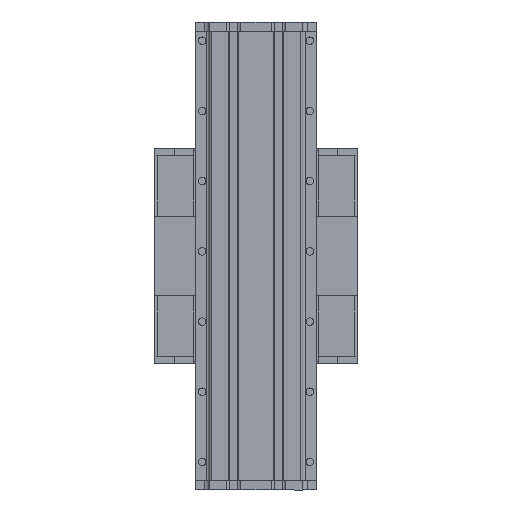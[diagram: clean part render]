
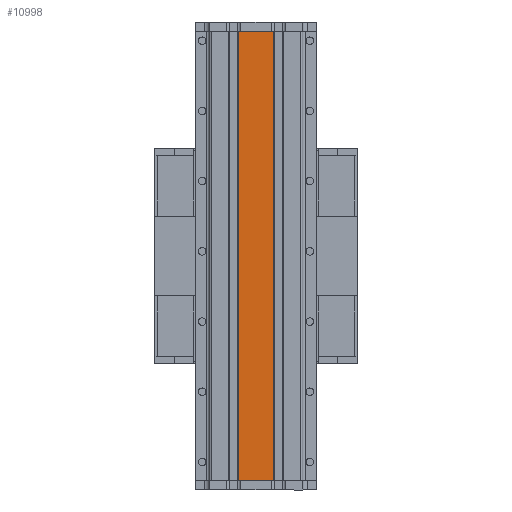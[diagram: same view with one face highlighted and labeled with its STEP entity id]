
A CAD part, front view. The second image highlights one B-rep face of the part: STEP entity #10998.
In plain terms, the highlighted planar face has unit normal (0, -1, 0).
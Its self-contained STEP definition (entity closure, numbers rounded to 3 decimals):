
#161 = VERTEX_POINT ( 'NONE', #7261 ) ;
#557 = CARTESIAN_POINT ( 'NONE',  ( 38., 0., -480. ) ) ;
#559 = EDGE_LOOP ( 'NONE', ( #2988, #6087, #2716, #2561 ) ) ;
#621 = EDGE_CURVE ( 'NONE', #9723, #3127, #8923, .T. ) ;
#1038 = VECTOR ( 'NONE', #11426, 1000. ) ;
#1047 = DIRECTION ( 'NONE',  ( 0., 0., 1. ) ) ;
#2371 = CARTESIAN_POINT ( 'NONE',  ( 38., 0., 480. ) ) ;
#2561 = ORIENTED_EDGE ( 'NONE', *, *, #7974, .T. ) ;
#2604 = VERTEX_POINT ( 'NONE', #13689 ) ;
#2716 = ORIENTED_EDGE ( 'NONE', *, *, #5170, .F. ) ;
#2988 = ORIENTED_EDGE ( 'NONE', *, *, #621, .T. ) ;
#3127 = VERTEX_POINT ( 'NONE', #557 ) ;
#3848 = DIRECTION ( 'NONE',  ( 1., 0., 0. ) ) ;
#3861 = DIRECTION ( 'NONE',  ( 0., 0., -1. ) ) ;
#3904 = DIRECTION ( 'NONE',  ( 0., 0., -1. ) ) ;
#4800 = AXIS2_PLACEMENT_3D ( 'NONE', #8544, #6206, #1047 ) ;
#5170 = EDGE_CURVE ( 'NONE', #161, #2604, #12634, .T. ) ;
#6087 = ORIENTED_EDGE ( 'NONE', *, *, #8737, .F. ) ;
#6206 = DIRECTION ( 'NONE',  ( 0., 1., 0. ) ) ;
#6539 = CARTESIAN_POINT ( 'NONE',  ( 0., 0., 480. ) ) ;
#6667 = VECTOR ( 'NONE', #3904, 1000. ) ;
#7261 = CARTESIAN_POINT ( 'NONE',  ( -38., 0., 480. ) ) ;
#7974 = EDGE_CURVE ( 'NONE', #161, #9723, #14861, .T. ) ;
#8499 = LINE ( 'NONE', #2371, #6667 ) ;
#8544 = CARTESIAN_POINT ( 'NONE',  ( 0., 0., 480. ) ) ;
#8737 = EDGE_CURVE ( 'NONE', #2604, #3127, #8499, .T. ) ;
#8923 = LINE ( 'NONE', #11229, #14976 ) ;
#9721 = VECTOR ( 'NONE', #3861, 1000. ) ;
#9723 = VERTEX_POINT ( 'NONE', #15536 ) ;
#10998 = ADVANCED_FACE ( 'NONE', ( #11020 ), #14780, .F. ) ;
#11020 = FACE_OUTER_BOUND ( 'NONE', #559, .T. ) ;
#11229 = CARTESIAN_POINT ( 'NONE',  ( 0., 0., -480. ) ) ;
#11426 = DIRECTION ( 'NONE',  ( 1., 0., 0. ) ) ;
#12634 = LINE ( 'NONE', #6539, #1038 ) ;
#13689 = CARTESIAN_POINT ( 'NONE',  ( 38., 0., 480. ) ) ;
#14776 = CARTESIAN_POINT ( 'NONE',  ( -38., 0., 480. ) ) ;
#14780 = PLANE ( 'NONE',  #4800 ) ;
#14861 = LINE ( 'NONE', #14776, #9721 ) ;
#14976 = VECTOR ( 'NONE', #3848, 1000. ) ;
#15536 = CARTESIAN_POINT ( 'NONE',  ( -38., 0., -480. ) ) ;
